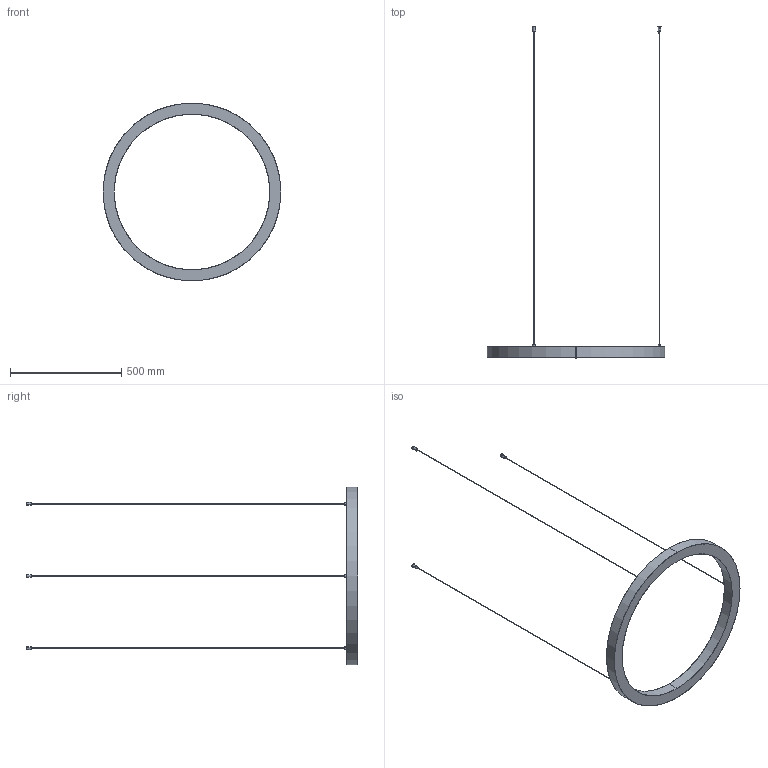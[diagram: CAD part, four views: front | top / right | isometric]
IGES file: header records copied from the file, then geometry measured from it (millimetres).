
Start section: SolidWorks IGES file using analytic representation for surfaces
Global section: file name: F:\燠隴矨\3D\2024-8堎\Ring LED Pendant Light-D80CM.IGS; native system: SolidWorks 2022; preprocessor: SolidWorks 2022; author: MyPC; date: 240813.090809; units: millimetre
Bounding box: 800 x 1492.5 x 800 mm (x, y, z)
Surface area: 517035.3 mm2 (no closed solid volume)
Topology: 0 solids, 0 shells, 72 faces, 1400 edges, 1400 vertices
Faces by surface type: revolution 46, bspline 26
